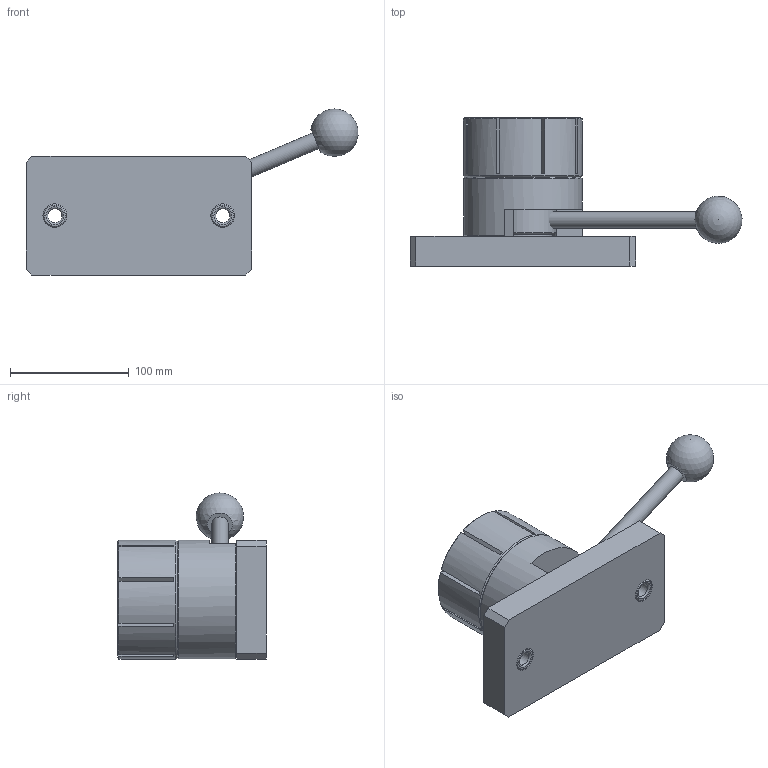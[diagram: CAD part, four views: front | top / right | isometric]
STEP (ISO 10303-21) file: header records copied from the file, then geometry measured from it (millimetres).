
FILE_DESCRIPTION(/* description */ (''),/* implementation_level */ '2;1');
FILE_NAME(/* name */ 'CP40-A100.stp',/* time_stamp */ '2022-08-02T14:23:37+08:00',/* author */ (''),/* organization */ (''),/* preprocessor_version */ 'ST-DEVELOPER v16.7',/* originating_system */ 'SIEMENS PLM Software NX 12.0',/* authorisation */ '');
FILE_SCHEMA (('AP203_CONFIGURATION_CONTROLLED_3D_DESIGN_OF_MECHANICAL_PARTS_AND_ASSEMBLIES_MIM_LF { 1 0 10303 403 2 1 2}'));
Length unit declared in the file: millimetre
Products named in the file (1): Admi4BB42D6Dysap
Bounding box: 279.59 x 125 x 139.94 mm (x, y, z)
Volume: 1223313.9 mm3; surface area: 179954.9 mm2
Topology: 9 solids, 9 shells, 109 faces, 262 edges, 175 vertices
Faces by surface type: plane 71, cylinder 18, cone 15, torus 4, sphere 1
Full cylindrical faces by diameter (mm): 12 x2, 14 x3, 20 x6, 21 x1, 22 x1, 50 x1, 56 x1, 100 x2
Entity records: 3083 total; most frequent: CARTESIAN_POINT 534, DIRECTION 508, ORIENTED_EDGE 434, EDGE_CURVE 217, AXIS2_PLACEMENT_3D 197, VERTEX_POINT 159, EDGE_LOOP 152, LINE 114
